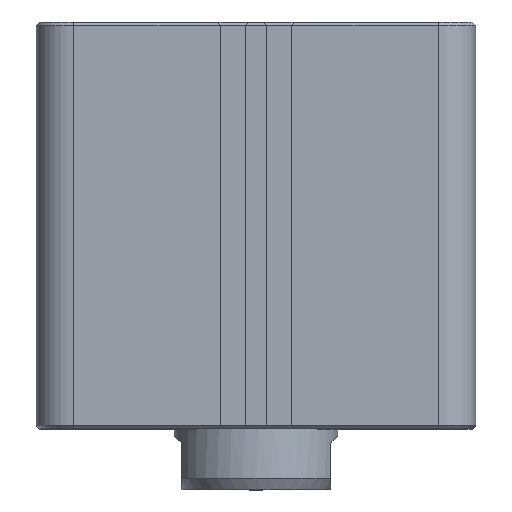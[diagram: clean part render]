
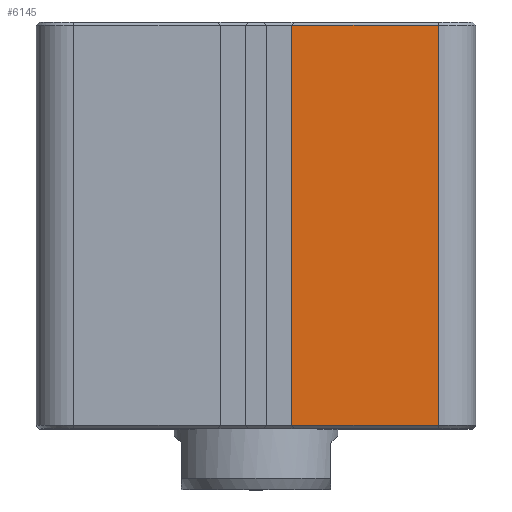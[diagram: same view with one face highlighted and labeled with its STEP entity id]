
A CAD part, top view. The second image highlights one B-rep face of the part: STEP entity #6145.
In plain terms, the highlighted planar face has unit normal (0, 0, 1).
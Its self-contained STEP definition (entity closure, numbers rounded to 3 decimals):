
#84=PLANE('',#6469);
#348=LINE('',#8959,#750);
#351=LINE('',#8965,#753);
#352=LINE('',#8968,#754);
#353=LINE('',#8969,#755);
#750=VECTOR('',#7078,1000.);
#753=VECTOR('',#7083,1000.);
#754=VECTOR('',#7084,1000.);
#755=VECTOR('',#7085,1000.);
#1593=ORIENTED_EDGE('',*,*,#2600,.F.);
#1594=ORIENTED_EDGE('',*,*,#2601,.T.);
#1595=ORIENTED_EDGE('',*,*,#2597,.T.);
#1596=ORIENTED_EDGE('',*,*,#2602,.T.);
#2597=EDGE_CURVE('',#3113,#3114,#348,.T.);
#2600=EDGE_CURVE('',#3115,#3116,#351,.T.);
#2601=EDGE_CURVE('',#3115,#3113,#352,.T.);
#2602=EDGE_CURVE('',#3114,#3116,#353,.T.);
#3113=VERTEX_POINT('',#8960);
#3114=VERTEX_POINT('',#8961);
#3115=VERTEX_POINT('',#8966);
#3116=VERTEX_POINT('',#8967);
#3489=EDGE_LOOP('',(#1593,#1594,#1595,#1596));
#3830=FACE_BOUND('',#3489,.T.);
#6145=ADVANCED_FACE('',(#3830),#84,.T.);
#6469=AXIS2_PLACEMENT_3D('',#8964,#7081,#7082);
#7078=DIRECTION('',(0.,-1.,0.));
#7081=DIRECTION('',(0.,0.,1.));
#7082=DIRECTION('',(1.,0.,0.));
#7083=DIRECTION('',(0.,-1.,0.));
#7084=DIRECTION('',(-1.,0.,0.));
#7085=DIRECTION('',(1.,0.,0.));
#8959=CARTESIAN_POINT('',(7.65,77.,47.));
#8960=CARTESIAN_POINT('',(7.65,86.3,47.));
#8961=CARTESIAN_POINT('',(7.65,0.7,47.));
#8964=CARTESIAN_POINT('',(39.,77.,47.));
#8965=CARTESIAN_POINT('',(39.,77.,47.));
#8966=CARTESIAN_POINT('',(39.,86.3,47.));
#8967=CARTESIAN_POINT('',(39.,0.7,47.));
#8968=CARTESIAN_POINT('',(39.,86.3,47.));
#8969=CARTESIAN_POINT('',(39.,0.7,47.));
